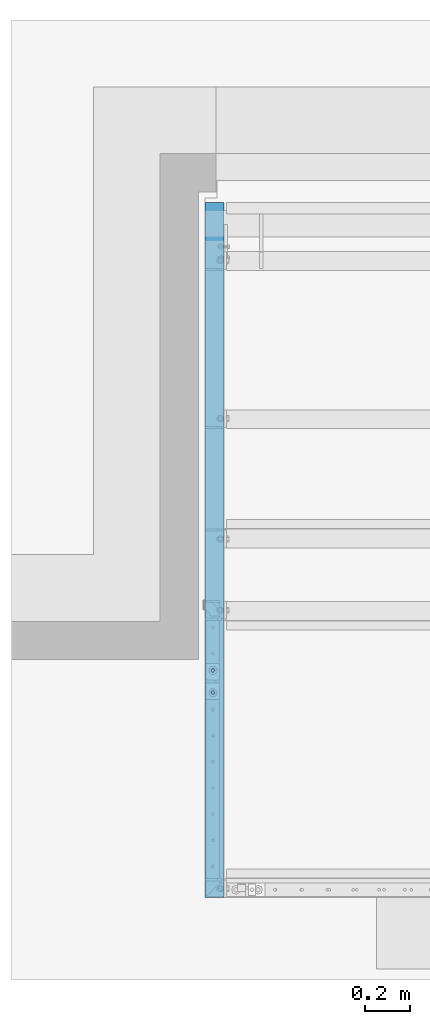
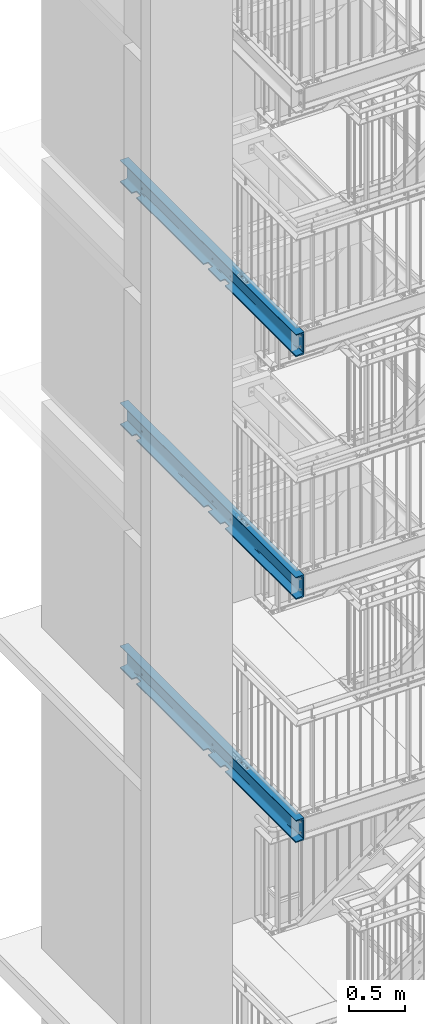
# One storey, part 114 of 825: 3 beams, 39 openings.
"""IFC2X3 building model written with IfcOpenShell, lengths in millimetres."""

import ifcopenshell
import ifcopenshell.guid

model = None  # the IFC model being written
_history = None  # IfcOwnerHistory: only IFC2X3 demands one
_inside = {}  # id of a spatial element -> (the spatial element, [elements in it])
_under = {}  # id of a project, library or spatial element -> (it, [spatial elements below it])
_declared = {}  # id of a project -> (the project, [libraries it declares])
_typed = {}  # id of a type object -> (the type object, [elements of that type])
_made_of = {}  # id of a material, layer set ... -> (it, [elements and type objects made of it])


def new_model(schema):
    """Start an empty IFC model of exactly this schema.

    Asked for "IFC4X3", IfcOpenShell would pick the latest addendum, in which some entities
    have other attributes; the version numbers below select the first issue.
    IFC2X3 requires an IfcOwnerHistory on every rooted entity: one is made here for all.
    """
    global model, _history
    if schema == "IFC4X3":
        model = ifcopenshell.file(schema_version=(4, 3, 0, 0))
    else:
        model = ifcopenshell.file(schema=schema)
    _inside.clear()
    _under.clear()
    _declared.clear()
    _typed.clear()
    _made_of.clear()
    _history = None
    if model.schema == "IFC2X3":
        org = make("IfcOrganization", Name="unknown")
        user = make(
            "IfcPersonAndOrganization",
            ThePerson=make("IfcPerson", FamilyName="unknown"),
            TheOrganization=org,
        )
        app = make(
            "IfcApplication",
            ApplicationDeveloper=org,
            Version="unknown",
            ApplicationFullName="unknown",
            ApplicationIdentifier="unknown",
        )
        _history = make(
            "IfcOwnerHistory",
            OwningUser=user,
            OwningApplication=app,
            ChangeAction="ADDED",
            CreationDate=0,
        )
    return model


def make(cls, **values):
    """One entity of the class cls with the attributes given. An attribute that is None is left unset."""
    return model.create_entity(
        cls, **{name: value for name, value in values.items() if value is not None}
    )


def entity(cls, *values):
    """Any entity or typed value of the class cls, its attributes in the order of the schema. None: left unset."""
    e = model.create_entity(cls)
    for i, value in enumerate(values):
        if value is not None:
            e[i] = value
    return e


def rooted(cls, **values):
    """An entity with a GlobalId (a new one), such as an element, a storey or a relation."""
    return make(cls, GlobalId=ifcopenshell.guid.new(), OwnerHistory=_history, **values)


def si_unit(unit_type, name, prefix=None):
    """IfcSIUnit, for example si_unit("LENGTHUNIT", "METRE", prefix="MILLI")."""
    return make("IfcSIUnit", UnitType=unit_type, Prefix=prefix, Name=name)


def converted_unit(unit_type, name, factor, base, dimensions=None, offset=None):
    """IfcConversionBasedUnit, such as the inch: factor (a typed value) times the base unit."""
    return make(
        "IfcConversionBasedUnit"
        if offset is None
        else "IfcConversionBasedUnitWithOffset",
        ConversionOffset=offset,
        Dimensions=None
        if dimensions is None
        else entity("IfcDimensionalExponents", *dimensions),
        UnitType=unit_type,
        Name=name,
        ConversionFactor=make(
            "IfcMeasureWithUnit", ValueComponent=factor, UnitComponent=base
        ),
    )


def assignment(units):
    """IfcUnitAssignment: the units of a project."""
    return None if units is None else make("IfcUnitAssignment", Units=units)


def point(xyz):
    """IfcCartesianPoint."""
    return None if xyz is None else make("IfcCartesianPoint", Coordinates=xyz)


def direction(xyz):
    """IfcDirection."""
    return None if xyz is None else make("IfcDirection", DirectionRatios=xyz)


def frame(location, z_axis=None, x_axis=None):
    """IfcAxis2Placement3D, a coordinate frame: its origin and axes. An axis left out is left unset."""
    return make(
        "IfcAxis2Placement3D",
        Location=point(location),
        Axis=direction(z_axis),
        RefDirection=direction(x_axis),
    )


def frame_2d(location, x_axis=None):
    """IfcAxis2Placement2D, a coordinate frame in the plane: its origin and x axis."""
    return make(
        "IfcAxis2Placement2D", Location=point(location), RefDirection=direction(x_axis)
    )


def origin():
    """The frame at (0, 0, 0) with its axes left unset."""
    return frame((0.0, 0.0, 0.0))


def origin_with_axes():
    """The frame at (0, 0, 0) with the z axis (0, 0, 1) and the x axis (1, 0, 0) written out."""
    return frame((0.0, 0.0, 0.0), z_axis=(0.0, 0.0, 1.0), x_axis=(1.0, 0.0, 0.0))


def place(relative_to, where):
    """IfcLocalPlacement: puts the frame where relative to a parent placement (None: the world)."""
    return make(
        "IfcLocalPlacement", PlacementRelTo=relative_to, RelativePlacement=where
    )


def context(
    kind, dimensions, precision=None, world=None, true_north=None, identifier=None
):
    """IfcGeometricRepresentationContext, for example the 3D "Model" context."""
    return make(
        "IfcGeometricRepresentationContext",
        ContextIdentifier=identifier,
        ContextType=kind,
        CoordinateSpaceDimension=dimensions,
        Precision=precision,
        WorldCoordinateSystem=world,
        TrueNorth=true_north,
    )


def project(units=None, contexts=None):
    """IfcProject with its units and contexts."""
    return rooted(
        "IfcProject",
        Name="project",
        RepresentationContexts=contexts,
        UnitsInContext=assignment(units),
    )


def spatial(cls, under=None, at=None, **own):
    """A site, building, storey or space (cls), placed at a placement, below another one or the project."""
    s = rooted(cls, ObjectPlacement=at, **own)
    if under is not None:
        _under.setdefault(under.id(), (under, []))[1].append(s)
    return s


def circle_curve(where, radius):
    """IfcCircle in the frame where."""
    return make("IfcCircle", Position=where, Radius=radius)


def line_curve(start, along, magnitude):
    """IfcLine from a point along a vector."""
    return make(
        "IfcLine",
        Pnt=point(start),
        Dir=make("IfcVector", Orientation=direction(along), Magnitude=magnitude),
    )


def trimmed(basis, trim1, trim2, sense, master):
    """IfcTrimmedCurve: the piece of a basis curve between two trims."""
    return make(
        "IfcTrimmedCurve",
        BasisCurve=basis,
        Trim1=trim1,
        Trim2=trim2,
        SenseAgreement=sense,
        MasterRepresentation=master,
    )


def segment(curve, same_sense, transition):
    """IfcCompositeCurveSegment."""
    return make(
        "IfcCompositeCurveSegment",
        Transition=transition,
        SameSense=same_sense,
        ParentCurve=curve,
    )


def composite_curve(segments, self_intersect=None):
    """IfcCompositeCurve: segments joined end to end."""
    return make("IfcCompositeCurve", Segments=segments, SelfIntersect=self_intersect)


def profile(cls, at=None, kind="AREA", **sizes):
    """A parametric profile (cls). Its sizes go by their IFC names, for example OverallWidth=200.0."""
    return make(cls, ProfileType=kind, Position=at, **sizes)


def circle(**sizes):
    """IfcCircleProfileDef."""
    return profile("IfcCircleProfileDef", **sizes)


def u_section(**sizes):
    """IfcUShapeProfileDef."""
    return profile("IfcUShapeProfileDef", **sizes)


def outline(outer, holes=None, kind="AREA"):
    """IfcArbitraryClosedProfileDef: a profile drawn as a closed curve; with holes, ...WithVoids."""
    if holes is None:
        return make("IfcArbitraryClosedProfileDef", ProfileType=kind, OuterCurve=outer)
    return make(
        "IfcArbitraryProfileDefWithVoids",
        ProfileType=kind,
        OuterCurve=outer,
        InnerCurves=holes,
    )


def extrude(swept, where, along, depth):
    """IfcExtrudedAreaSolid: the profile swept, set in the frame where, extruded along a direction by depth."""
    return make(
        "IfcExtrudedAreaSolid",
        SweptArea=swept,
        Position=where,
        ExtrudedDirection=direction(along),
        Depth=depth,
    )


def shape(context_of_items, identifier, shape_type, items):
    """IfcShapeRepresentation: the items that make up one representation, for example the "Body"."""
    return make(
        "IfcShapeRepresentation",
        ContextOfItems=context_of_items,
        RepresentationIdentifier=identifier,
        RepresentationType=shape_type,
        Items=items,
    )


def material(Name=None, Category=None):
    """IfcMaterial."""
    return make("IfcMaterial", Name=Name, Category=Category)


def made_of(thing, what):
    """Note that an element or type object is made of a material, layer set ...; save() writes the relation."""
    if what is not None:
        _made_of.setdefault(what.id(), (what, []))[1].append(thing)
    return thing


def element(
    cls,
    number,
    at=None,
    inside=None,
    cuts=None,
    type_object=None,
    material=None,
    context=None,
    identifier="Body",
    shape_type=None,
    held_by="IfcProductDefinitionShape",
    body=None,
    shapes=None,
    **own,
):
    """One element of the class cls, such as IfcWall. Its Tag is "e" and its number.

    at: its placement. inside: the storey or other place that contains it. cuts: it is an
    opening in that element (IfcRelVoidsElement). A single representation is given by context,
    identifier, shape_type and body (its items); several are given by shapes. held_by: the class
    of the entity that holds the representations. save() writes the other relations.
    """
    e = rooted(cls, Tag="e%d" % number, ObjectPlacement=at, **own)
    if body is not None:
        shapes = [shape(context, identifier, shape_type, body)]
    if shapes is not None:
        e.Representation = make(held_by, Representations=shapes)
    if inside is not None:
        _inside.setdefault(inside.id(), (inside, []))[1].append(e)
    if cuts is not None:
        rooted(
            "IfcRelVoidsElement", RelatingBuildingElement=cuts, RelatedOpeningElement=e
        )
    if type_object is not None:
        _typed.setdefault(type_object.id(), (type_object, []))[1].append(e)
    return made_of(e, material)


def aggregate(whole, parts):
    """IfcRelAggregates: a whole, such as a stair, and the parts it consists of."""
    return rooted("IfcRelAggregates", RelatingObject=whole, RelatedObjects=parts)


def save(model, path):
    """Write the relations noted so far, then the file.

    IfcRelAggregates (storeys below a building ...), IfcRelContainedInSpatialStructure (elements
    in a storey), IfcRelDefinesByType, IfcRelAssociatesMaterial and IfcRelDeclares: one each for
    every whole, place, type object, material and project.
    """
    for whole, parts in _under.values():
        aggregate(whole, parts)
    for where, things in _inside.values():
        rooted(
            "IfcRelContainedInSpatialStructure",
            RelatedElements=things,
            RelatingStructure=where,
        )
    for kind, things in _typed.values():
        rooted("IfcRelDefinesByType", RelatedObjects=things, RelatingType=kind)
    for what, things in _made_of.values():
        rooted("IfcRelAssociatesMaterial", RelatedObjects=things, RelatingMaterial=what)
    for by, libraries in _declared.values():
        rooted("IfcRelDeclares", RelatingContext=by, RelatedDefinitions=libraries)
    model.write(path)


model = new_model("IFC2X3")

# Units and contexts
model_context = context("Model", 3, precision=1e-09, world=origin_with_axes())
ifc_project = project(units=[si_unit("LENGTHUNIT", "METRE", prefix="MILLI"), si_unit("AREAUNIT", "SQUARE_METRE"), si_unit("VOLUMEUNIT", "CUBIC_METRE"), converted_unit("PLANEANGLEUNIT", "DEGREE", entity("IfcPlaneAngleMeasure", 0.01745329), si_unit("PLANEANGLEUNIT", "RADIAN"), dimensions=[0, 0, 0, 0, 0, 0, 0])], contexts=[model_context])

# Site, building, storey
site_placement = place(None, origin_with_axes())
site = spatial("IfcSite", under=ifc_project, at=site_placement, Name="Cnopf'sche Kinderklinik", CompositionType="ELEMENT")
building_placement = place(site_placement, origin_with_axes())
building = spatial("IfcBuilding", under=site, at=building_placement, Name="Struktur 1", CompositionType="ELEMENT")
storey_placement = place(building_placement, origin_with_axes())
storey = spatial("IfcBuildingStorey", under=building, at=storey_placement, Name="Default Storey", CompositionType="ELEMENT", Elevation=0.0)

# Beam, openings
ifc_material = material(Name="S235JR")
beam_1_placement = place(None, frame((3299.413402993, 4491.736971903, 12459.0), z_axis=(0.0, 1.0, 0.0), x_axis=(-1.0, 0.0, 0.0)))
beam_1 = element("IfcBeam", 1, at=beam_1_placement, inside=storey, material=ifc_material, Name="Girder", ObjectType="Girder", context=model_context, shape_type="SweptSolid", body=[
    extrude(u_section(Depth=240.0, FlangeWidth=85.0, WebThickness=9.5, FlangeThickness=13.0, FilletRadius=13.0, EdgeRadius=6.5, FlangeSlope=4.574, at=frame_2d((20.2, 0.0))), origin(), (0.0, 0.0, 1.0), 3120.0),
])
opening_1_placement = place(beam_1_placement, frame((81.62874817, -30.0, 1269.999), z_axis=(0.0, 1.0, 0.0), x_axis=(-0.707106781, 0.0, -0.707106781)))
element("IfcOpeningElement", 2, at=opening_1_placement, cuts=beam_1, ObjectType="Opening", context=model_context, shape_type="SweptSolid", body=[
    extrude(outline(composite_curve([segment(trimmed(circle_curve(frame_2d((7.071067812, 7.071067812), x_axis=(1.0, 0.0)), 10.0), [point((0.0, 0.0))], [point((14.142135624, 0.0))], True, "CARTESIAN"), True, "CONTINUOUS"), segment(trimmed(line_curve((14.142135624, 0.0), (0.707106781, 0.707106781), 48.92974817), [point((14.142135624, 0.0))], [point((48.740692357, 34.598556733))], True, "CARTESIAN"), True, "CONTINUOUS"), segment(trimmed(circle_curve(frame_2d((41.669624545, 41.669624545), x_axis=(1.0, 0.0)), 10.0), [point((48.740692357, 34.598556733))], [point((48.740692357, 48.740692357))], True, "CARTESIAN"), True, "CONTINUOUS"), segment(trimmed(line_curve((48.740692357, 48.740692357), (-0.707106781, 0.707106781), 60.002), [point((48.740692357, 48.740692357))], [point((6.312871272, 91.168513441))], True, "CARTESIAN"), True, "CONTINUOUS"), segment(trimmed(circle_curve(frame_2d((-0.75819654, 84.097445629), x_axis=(1.0, 0.0)), 10.0), [point((6.312871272, 91.168513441))], [point((-7.829264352, 91.168513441))], True, "CARTESIAN"), True, "CONTINUOUS"), segment(trimmed(line_curve((-7.829264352, 91.168513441), (-0.707106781, -0.707106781), 48.92974817), [point((-7.829264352, 91.168513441))], [point((-42.427821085, 56.569956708))], True, "CARTESIAN"), True, "CONTINUOUS"), segment(trimmed(circle_curve(frame_2d((-35.356753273, 49.498888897), x_axis=(1.0, 0.0)), 10.0), [point((-42.427821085, 56.569956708))], [point((-42.427821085, 42.427821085))], True, "CARTESIAN"), True, "CONTINUOUS"), segment(trimmed(line_curve((-42.427821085, 42.427821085), (0.707106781, -0.707106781), 60.002), [point((-42.427821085, 42.427821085))], [point((0.0, 0.0))], True, "CARTESIAN"), True, "CONTINUOUS")], self_intersect=False)), origin(), (0.0, 0.0, -1.0), 190.1),
])
opening_2_placement = place(beam_1_placement, frame((79.429256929, -30.0, 2839.999), z_axis=(0.0, 1.0, 0.0), x_axis=(-0.707106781, 0.0, -0.707106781)))
element("IfcOpeningElement", 3, at=opening_2_placement, cuts=beam_1, ObjectType="Opening", context=model_context, shape_type="SweptSolid", body=[
    extrude(outline(composite_curve([segment(trimmed(circle_curve(frame_2d((7.071067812, 7.071067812), x_axis=(1.0, 0.0)), 10.0), [point((0.0, 0.0))], [point((14.142135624, 0.0))], True, "CARTESIAN"), True, "CONTINUOUS"), segment(trimmed(line_curve((14.142135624, 0.0), (0.707106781, 0.707106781), 46.730256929), [point((14.142135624, 0.0))], [point((47.185417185, 33.043281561))], True, "CARTESIAN"), True, "CONTINUOUS"), segment(trimmed(circle_curve(frame_2d((40.114349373, 40.114349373), x_axis=(1.0, 0.0)), 10.0), [point((47.185417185, 33.043281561))], [point((47.185417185, 47.185417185))], True, "CARTESIAN"), True, "CONTINUOUS"), segment(trimmed(line_curve((47.185417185, 47.185417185), (-0.707106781, 0.707106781), 60.002), [point((47.185417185, 47.185417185))], [point((4.7575961, 89.61323827))], True, "CARTESIAN"), True, "CONTINUOUS"), segment(trimmed(circle_curve(frame_2d((-2.313471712, 82.542170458), x_axis=(1.0, 0.0)), 10.0), [point((4.7575961, 89.61323827))], [point((-9.384539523, 89.61323827))], True, "CARTESIAN"), True, "CONTINUOUS"), segment(trimmed(line_curve((-9.384539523, 89.61323827), (-0.707106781, -0.707106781), 46.730256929), [point((-9.384539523, 89.61323827))], [point((-42.427821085, 56.569956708))], True, "CARTESIAN"), True, "CONTINUOUS"), segment(trimmed(circle_curve(frame_2d((-35.356753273, 49.498888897), x_axis=(1.0, 0.0)), 10.0), [point((-42.427821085, 56.569956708))], [point((-42.427821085, 42.427821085))], True, "CARTESIAN"), True, "CONTINUOUS"), segment(trimmed(line_curve((-42.427821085, 42.427821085), (0.707106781, -0.707106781), 60.002), [point((-42.427821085, 42.427821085))], [point((0.0, 0.0))], True, "CARTESIAN"), True, "CONTINUOUS")], self_intersect=False)), origin(), (0.0, 0.0, -1.0), 190.1),
])
opening_3_placement = place(beam_1_placement, frame((80.021054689, -30.0, 1569.999), z_axis=(0.0, 1.0, 0.0), x_axis=(-0.707106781, 0.0, -0.707106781)))
element("IfcOpeningElement", 4, at=opening_3_placement, cuts=beam_1, ObjectType="Opening", context=model_context, shape_type="SweptSolid", body=[
    extrude(outline(composite_curve([segment(trimmed(circle_curve(frame_2d((7.071067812, 7.071067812), x_axis=(1.0, 0.0)), 10.0), [point((0.0, 0.0))], [point((14.142135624, 0.0))], True, "CARTESIAN"), True, "CONTINUOUS"), segment(trimmed(line_curve((14.142135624, 0.0), (0.707106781, 0.707106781), 47.322054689), [point((14.142135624, 0.0))], [point((47.603881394, 33.46174577))], True, "CARTESIAN"), True, "CONTINUOUS"), segment(trimmed(circle_curve(frame_2d((40.532813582, 40.532813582), x_axis=(1.0, 0.0)), 10.0), [point((47.603881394, 33.46174577))], [point((47.603881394, 47.603881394))], True, "CARTESIAN"), True, "CONTINUOUS"), segment(trimmed(line_curve((47.603881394, 47.603881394), (-0.707106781, 0.707106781), 60.002), [point((47.603881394, 47.603881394))], [point((5.176060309, 90.031702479))], True, "CARTESIAN"), True, "CONTINUOUS"), segment(trimmed(circle_curve(frame_2d((-1.895007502, 82.960634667), x_axis=(1.0, 0.0)), 10.0), [point((5.176060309, 90.031702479))], [point((-8.966075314, 90.031702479))], True, "CARTESIAN"), True, "CONTINUOUS"), segment(trimmed(line_curve((-8.966075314, 90.031702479), (-0.707106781, -0.707106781), 47.322054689), [point((-8.966075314, 90.031702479))], [point((-42.427821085, 56.569956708))], True, "CARTESIAN"), True, "CONTINUOUS"), segment(trimmed(circle_curve(frame_2d((-35.356753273, 49.498888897), x_axis=(1.0, 0.0)), 10.0), [point((-42.427821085, 56.569956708))], [point((-42.427821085, 42.427821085))], True, "CARTESIAN"), True, "CONTINUOUS"), segment(trimmed(line_curve((-42.427821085, 42.427821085), (0.707106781, -0.707106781), 60.002), [point((-42.427821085, 42.427821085))], [point((0.0, 0.0))], True, "CARTESIAN"), True, "CONTINUOUS")], self_intersect=False)), origin(), (0.0, 0.0, -1.0), 190.1),
])
opening_4_placement = place(beam_1_placement, frame((27.7, 120.5, 1013.001), z_axis=(0.0, 1.0, 0.0), x_axis=(-1.0, 0.0, 0.0)))
element("IfcOpeningElement", 5, at=opening_4_placement, cuts=beam_1, ObjectType="Opening", context=model_context, shape_type="SweptSolid", body=[
    extrude(circle(Radius=7.001, at=frame_2d((0.0, 7.001), x_axis=(1.0, 0.0))), origin(), (0.0, 0.0, -1.0), 14.0),
])
opening_5_placement = place(beam_1_placement, frame((27.7, 120.5, 913.001), z_axis=(0.0, 1.0, 0.0), x_axis=(-1.0, 0.0, 0.0)))
element("IfcOpeningElement", 6, at=opening_5_placement, cuts=beam_1, ObjectType="Opening", context=model_context, shape_type="SweptSolid", body=[
    extrude(circle(Radius=7.001, at=frame_2d((0.0, 7.001), x_axis=(1.0, 0.0))), origin(), (0.0, 0.0, -1.0), 14.0),
])
opening_6_placement = place(beam_1_placement, frame((-12.3, 50.999, 1290.0), z_axis=(1.0, 0.0, 0.0), x_axis=(0.0, 1.0, 0.0)))
element("IfcOpeningElement", 7, at=opening_6_placement, cuts=beam_1, ObjectType="Opening", context=model_context, shape_type="SweptSolid", body=[
    extrude(circle(Radius=9.001, at=frame_2d((9.001, 0.0), x_axis=(1.0, 0.0))), origin(), (0.0, 0.0, -1.0), 10.5),
])
opening_7_placement = place(beam_1_placement, frame((-12.3, -69.001, 1290.0), z_axis=(1.0, 0.0, 0.0), x_axis=(0.0, 1.0, 0.0)))
element("IfcOpeningElement", 8, at=opening_7_placement, cuts=beam_1, ObjectType="Opening", context=model_context, shape_type="SweptSolid", body=[
    extrude(circle(Radius=9.001, at=frame_2d((9.001, 0.0), x_axis=(1.0, 0.0))), origin(), (0.0, 0.0, -1.0), 10.5),
])
opening_8_placement = place(beam_1_placement, frame((-12.3, 50.999, 2860.0), z_axis=(1.0, 0.0, 0.0), x_axis=(0.0, 1.0, 0.0)))
element("IfcOpeningElement", 9, at=opening_8_placement, cuts=beam_1, ObjectType="Opening", context=model_context, shape_type="SweptSolid", body=[
    extrude(circle(Radius=9.001, at=frame_2d((9.001, 0.0), x_axis=(1.0, 0.0))), origin(), (0.0, 0.0, -1.0), 10.5),
])
opening_9_placement = place(beam_1_placement, frame((-12.3, -69.001, 2860.0), z_axis=(1.0, 0.0, 0.0), x_axis=(0.0, 1.0, 0.0)))
element("IfcOpeningElement", 10, at=opening_9_placement, cuts=beam_1, ObjectType="Opening", context=model_context, shape_type="SweptSolid", body=[
    extrude(circle(Radius=9.001, at=frame_2d((9.001, 0.0), x_axis=(1.0, 0.0))), origin(), (0.0, 0.0, -1.0), 10.5),
])
opening_10_placement = place(beam_1_placement, frame((-12.3, 0.0, 1610.0), z_axis=(-1.0, 0.0, 0.0), x_axis=(0.0, 1.0, 0.0)))
element("IfcOpeningElement", 11, at=opening_10_placement, cuts=beam_1, ObjectType="Opening", context=model_context, shape_type="SweptSolid", body=[
    extrude(circle(Radius=9.001, at=frame_2d((60.0, 0.0), x_axis=(1.0, 0.0))), origin(), (0.0, 0.0, 1.0), 10.5),
])
opening_11_placement = place(beam_1_placement, frame((-12.3, 0.0, 1610.0), z_axis=(-1.0, 0.0, 0.0), x_axis=(0.0, 1.0, 0.0)))
element("IfcOpeningElement", 12, at=opening_11_placement, cuts=beam_1, ObjectType="Opening", context=model_context, shape_type="SweptSolid", body=[
    extrude(circle(Radius=9.001, at=frame_2d((-60.0, 0.0), x_axis=(1.0, 0.0))), origin(), (0.0, 0.0, 1.0), 10.5),
])
opening_12_placement = place(beam_1_placement, frame((-12.3, 0.0, 40.0), z_axis=(-1.0, 0.0, 0.0), x_axis=(0.0, 1.0, 0.0)))
element("IfcOpeningElement", 13, at=opening_12_placement, cuts=beam_1, ObjectType="Opening", context=model_context, shape_type="SweptSolid", body=[
    extrude(circle(Radius=9.001, at=frame_2d((60.0, 0.0), x_axis=(1.0, 0.0))), origin(), (0.0, 0.0, 1.0), 10.5),
])
opening_13_placement = place(beam_1_placement, frame((-12.3, 0.0, 40.0), z_axis=(-1.0, 0.0, 0.0), x_axis=(0.0, 1.0, 0.0)))
element("IfcOpeningElement", 14, at=opening_13_placement, cuts=beam_1, ObjectType="Opening", context=model_context, shape_type="SweptSolid", body=[
    extrude(circle(Radius=9.001, at=frame_2d((-60.0, 0.0), x_axis=(1.0, 0.0))), origin(), (0.0, 0.0, 1.0), 10.5),
])

beam_2_placement = place(None, frame((3299.413402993, 4491.736971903, 9832.0), z_axis=(0.0, 1.0, 0.0), x_axis=(-1.0, 0.0, 0.0)))
beam_2 = element("IfcBeam", 15, at=beam_2_placement, inside=storey, material=ifc_material, Name="Girder", ObjectType="Girder", context=model_context, shape_type="SweptSolid", body=[
    extrude(u_section(Depth=240.0, FlangeWidth=85.0, WebThickness=9.5, FlangeThickness=13.0, FilletRadius=13.0, EdgeRadius=6.5, FlangeSlope=4.574, at=frame_2d((20.2, 0.0))), origin(), (0.0, 0.0, 1.0), 3120.0),
])
opening_14_placement = place(beam_2_placement, frame((81.62874817, -30.0, 1269.999), z_axis=(0.0, 1.0, 0.0), x_axis=(-0.707106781, 0.0, -0.707106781)))
element("IfcOpeningElement", 16, at=opening_14_placement, cuts=beam_2, ObjectType="Opening", context=model_context, shape_type="SweptSolid", body=[
    extrude(outline(composite_curve([segment(trimmed(circle_curve(frame_2d((7.071067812, 7.071067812), x_axis=(1.0, 0.0)), 10.0), [point((0.0, 0.0))], [point((14.142135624, 0.0))], True, "CARTESIAN"), True, "CONTINUOUS"), segment(trimmed(line_curve((14.142135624, 0.0), (0.707106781, 0.707106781), 48.92974817), [point((14.142135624, 0.0))], [point((48.740692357, 34.598556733))], True, "CARTESIAN"), True, "CONTINUOUS"), segment(trimmed(circle_curve(frame_2d((41.669624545, 41.669624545), x_axis=(1.0, 0.0)), 10.0), [point((48.740692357, 34.598556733))], [point((48.740692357, 48.740692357))], True, "CARTESIAN"), True, "CONTINUOUS"), segment(trimmed(line_curve((48.740692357, 48.740692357), (-0.707106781, 0.707106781), 60.002), [point((48.740692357, 48.740692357))], [point((6.312871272, 91.168513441))], True, "CARTESIAN"), True, "CONTINUOUS"), segment(trimmed(circle_curve(frame_2d((-0.75819654, 84.097445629), x_axis=(1.0, 0.0)), 10.0), [point((6.312871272, 91.168513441))], [point((-7.829264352, 91.168513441))], True, "CARTESIAN"), True, "CONTINUOUS"), segment(trimmed(line_curve((-7.829264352, 91.168513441), (-0.707106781, -0.707106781), 48.92974817), [point((-7.829264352, 91.168513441))], [point((-42.427821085, 56.569956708))], True, "CARTESIAN"), True, "CONTINUOUS"), segment(trimmed(circle_curve(frame_2d((-35.356753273, 49.498888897), x_axis=(1.0, 0.0)), 10.0), [point((-42.427821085, 56.569956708))], [point((-42.427821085, 42.427821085))], True, "CARTESIAN"), True, "CONTINUOUS"), segment(trimmed(line_curve((-42.427821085, 42.427821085), (0.707106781, -0.707106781), 60.002), [point((-42.427821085, 42.427821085))], [point((0.0, 0.0))], True, "CARTESIAN"), True, "CONTINUOUS")], self_intersect=False)), origin(), (0.0, 0.0, -1.0), 190.1),
])
opening_15_placement = place(beam_2_placement, frame((79.429256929, -30.0, 2839.999), z_axis=(0.0, 1.0, 0.0), x_axis=(-0.707106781, 0.0, -0.707106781)))
element("IfcOpeningElement", 17, at=opening_15_placement, cuts=beam_2, ObjectType="Opening", context=model_context, shape_type="SweptSolid", body=[
    extrude(outline(composite_curve([segment(trimmed(circle_curve(frame_2d((7.071067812, 7.071067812), x_axis=(1.0, 0.0)), 10.0), [point((0.0, 0.0))], [point((14.142135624, 0.0))], True, "CARTESIAN"), True, "CONTINUOUS"), segment(trimmed(line_curve((14.142135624, 0.0), (0.707106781, 0.707106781), 46.730256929), [point((14.142135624, 0.0))], [point((47.185417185, 33.043281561))], True, "CARTESIAN"), True, "CONTINUOUS"), segment(trimmed(circle_curve(frame_2d((40.114349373, 40.114349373), x_axis=(1.0, 0.0)), 10.0), [point((47.185417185, 33.043281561))], [point((47.185417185, 47.185417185))], True, "CARTESIAN"), True, "CONTINUOUS"), segment(trimmed(line_curve((47.185417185, 47.185417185), (-0.707106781, 0.707106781), 60.002), [point((47.185417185, 47.185417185))], [point((4.7575961, 89.61323827))], True, "CARTESIAN"), True, "CONTINUOUS"), segment(trimmed(circle_curve(frame_2d((-2.313471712, 82.542170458), x_axis=(1.0, 0.0)), 10.0), [point((4.7575961, 89.61323827))], [point((-9.384539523, 89.61323827))], True, "CARTESIAN"), True, "CONTINUOUS"), segment(trimmed(line_curve((-9.384539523, 89.61323827), (-0.707106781, -0.707106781), 46.730256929), [point((-9.384539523, 89.61323827))], [point((-42.427821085, 56.569956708))], True, "CARTESIAN"), True, "CONTINUOUS"), segment(trimmed(circle_curve(frame_2d((-35.356753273, 49.498888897), x_axis=(1.0, 0.0)), 10.0), [point((-42.427821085, 56.569956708))], [point((-42.427821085, 42.427821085))], True, "CARTESIAN"), True, "CONTINUOUS"), segment(trimmed(line_curve((-42.427821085, 42.427821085), (0.707106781, -0.707106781), 60.002), [point((-42.427821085, 42.427821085))], [point((0.0, 0.0))], True, "CARTESIAN"), True, "CONTINUOUS")], self_intersect=False)), origin(), (0.0, 0.0, -1.0), 190.1),
])
opening_16_placement = place(beam_2_placement, frame((80.021054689, -30.0, 1569.999), z_axis=(0.0, 1.0, 0.0), x_axis=(-0.707106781, 0.0, -0.707106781)))
element("IfcOpeningElement", 18, at=opening_16_placement, cuts=beam_2, ObjectType="Opening", context=model_context, shape_type="SweptSolid", body=[
    extrude(outline(composite_curve([segment(trimmed(circle_curve(frame_2d((7.071067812, 7.071067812), x_axis=(1.0, 0.0)), 10.0), [point((0.0, 0.0))], [point((14.142135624, 0.0))], True, "CARTESIAN"), True, "CONTINUOUS"), segment(trimmed(line_curve((14.142135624, 0.0), (0.707106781, 0.707106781), 47.322054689), [point((14.142135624, 0.0))], [point((47.603881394, 33.46174577))], True, "CARTESIAN"), True, "CONTINUOUS"), segment(trimmed(circle_curve(frame_2d((40.532813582, 40.532813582), x_axis=(1.0, 0.0)), 10.0), [point((47.603881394, 33.46174577))], [point((47.603881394, 47.603881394))], True, "CARTESIAN"), True, "CONTINUOUS"), segment(trimmed(line_curve((47.603881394, 47.603881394), (-0.707106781, 0.707106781), 60.002), [point((47.603881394, 47.603881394))], [point((5.176060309, 90.031702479))], True, "CARTESIAN"), True, "CONTINUOUS"), segment(trimmed(circle_curve(frame_2d((-1.895007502, 82.960634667), x_axis=(1.0, 0.0)), 10.0), [point((5.176060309, 90.031702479))], [point((-8.966075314, 90.031702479))], True, "CARTESIAN"), True, "CONTINUOUS"), segment(trimmed(line_curve((-8.966075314, 90.031702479), (-0.707106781, -0.707106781), 47.322054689), [point((-8.966075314, 90.031702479))], [point((-42.427821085, 56.569956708))], True, "CARTESIAN"), True, "CONTINUOUS"), segment(trimmed(circle_curve(frame_2d((-35.356753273, 49.498888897), x_axis=(1.0, 0.0)), 10.0), [point((-42.427821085, 56.569956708))], [point((-42.427821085, 42.427821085))], True, "CARTESIAN"), True, "CONTINUOUS"), segment(trimmed(line_curve((-42.427821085, 42.427821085), (0.707106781, -0.707106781), 60.002), [point((-42.427821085, 42.427821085))], [point((0.0, 0.0))], True, "CARTESIAN"), True, "CONTINUOUS")], self_intersect=False)), origin(), (0.0, 0.0, -1.0), 190.1),
])
opening_17_placement = place(beam_2_placement, frame((27.7, 120.5, 1013.001), z_axis=(0.0, 1.0, 0.0), x_axis=(-1.0, 0.0, 0.0)))
element("IfcOpeningElement", 19, at=opening_17_placement, cuts=beam_2, ObjectType="Opening", context=model_context, shape_type="SweptSolid", body=[
    extrude(circle(Radius=7.001, at=frame_2d((0.0, 7.001), x_axis=(1.0, 0.0))), origin(), (0.0, 0.0, -1.0), 14.0),
])
opening_18_placement = place(beam_2_placement, frame((27.7, 120.5, 913.001), z_axis=(0.0, 1.0, 0.0), x_axis=(-1.0, 0.0, 0.0)))
element("IfcOpeningElement", 20, at=opening_18_placement, cuts=beam_2, ObjectType="Opening", context=model_context, shape_type="SweptSolid", body=[
    extrude(circle(Radius=7.001, at=frame_2d((0.0, 7.001), x_axis=(1.0, 0.0))), origin(), (0.0, 0.0, -1.0), 14.0),
])
opening_19_placement = place(beam_2_placement, frame((-12.3, 50.999, 1290.0), z_axis=(1.0, 0.0, 0.0), x_axis=(0.0, 1.0, 0.0)))
element("IfcOpeningElement", 21, at=opening_19_placement, cuts=beam_2, ObjectType="Opening", context=model_context, shape_type="SweptSolid", body=[
    extrude(circle(Radius=9.001, at=frame_2d((9.001, 0.0), x_axis=(1.0, 0.0))), origin(), (0.0, 0.0, -1.0), 10.5),
])
opening_20_placement = place(beam_2_placement, frame((-12.3, -69.001, 1290.0), z_axis=(1.0, 0.0, 0.0), x_axis=(0.0, 1.0, 0.0)))
element("IfcOpeningElement", 22, at=opening_20_placement, cuts=beam_2, ObjectType="Opening", context=model_context, shape_type="SweptSolid", body=[
    extrude(circle(Radius=9.001, at=frame_2d((9.001, 0.0), x_axis=(1.0, 0.0))), origin(), (0.0, 0.0, -1.0), 10.5),
])
opening_21_placement = place(beam_2_placement, frame((-12.3, 0.0, 40.0), z_axis=(-1.0, 0.0, 0.0), x_axis=(0.0, 1.0, 0.0)))
element("IfcOpeningElement", 23, at=opening_21_placement, cuts=beam_2, ObjectType="Opening", context=model_context, shape_type="SweptSolid", body=[
    extrude(circle(Radius=9.001, at=frame_2d((60.0, 0.0), x_axis=(1.0, 0.0))), origin(), (0.0, 0.0, 1.0), 10.5),
])
opening_22_placement = place(beam_2_placement, frame((-12.3, 0.0, 40.0), z_axis=(-1.0, 0.0, 0.0), x_axis=(0.0, 1.0, 0.0)))
element("IfcOpeningElement", 24, at=opening_22_placement, cuts=beam_2, ObjectType="Opening", context=model_context, shape_type="SweptSolid", body=[
    extrude(circle(Radius=9.001, at=frame_2d((-60.0, 0.0), x_axis=(1.0, 0.0))), origin(), (0.0, 0.0, 1.0), 10.5),
])
opening_23_placement = place(beam_2_placement, frame((-12.3, 0.0, 1610.0), z_axis=(-1.0, 0.0, 0.0), x_axis=(0.0, 1.0, 0.0)))
element("IfcOpeningElement", 25, at=opening_23_placement, cuts=beam_2, ObjectType="Opening", context=model_context, shape_type="SweptSolid", body=[
    extrude(circle(Radius=9.001, at=frame_2d((60.0, 0.0), x_axis=(1.0, 0.0))), origin(), (0.0, 0.0, 1.0), 10.5),
])
opening_24_placement = place(beam_2_placement, frame((-12.3, 0.0, 1610.0), z_axis=(-1.0, 0.0, 0.0), x_axis=(0.0, 1.0, 0.0)))
element("IfcOpeningElement", 26, at=opening_24_placement, cuts=beam_2, ObjectType="Opening", context=model_context, shape_type="SweptSolid", body=[
    extrude(circle(Radius=9.001, at=frame_2d((-60.0, 0.0), x_axis=(1.0, 0.0))), origin(), (0.0, 0.0, 1.0), 10.5),
])
opening_25_placement = place(beam_2_placement, frame((-12.3, 50.999, 2860.0), z_axis=(1.0, 0.0, 0.0), x_axis=(0.0, 1.0, 0.0)))
element("IfcOpeningElement", 27, at=opening_25_placement, cuts=beam_2, ObjectType="Opening", context=model_context, shape_type="SweptSolid", body=[
    extrude(circle(Radius=9.001, at=frame_2d((9.001, 0.0), x_axis=(1.0, 0.0))), origin(), (0.0, 0.0, -1.0), 10.5),
])
opening_26_placement = place(beam_2_placement, frame((-12.3, -69.001, 2860.0), z_axis=(1.0, 0.0, 0.0), x_axis=(0.0, 1.0, 0.0)))
element("IfcOpeningElement", 28, at=opening_26_placement, cuts=beam_2, ObjectType="Opening", context=model_context, shape_type="SweptSolid", body=[
    extrude(circle(Radius=9.001, at=frame_2d((9.001, 0.0), x_axis=(1.0, 0.0))), origin(), (0.0, 0.0, -1.0), 10.5),
])

beam_3_placement = place(None, frame((3299.413402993, 4491.736971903, 7200.0), z_axis=(0.0, 1.0, 0.0), x_axis=(-1.0, 0.0, 0.0)))
beam_3 = element("IfcBeam", 29, at=beam_3_placement, inside=storey, material=ifc_material, Name="Girder", ObjectType="Girder", context=model_context, shape_type="SweptSolid", body=[
    extrude(u_section(Depth=240.0, FlangeWidth=85.0, WebThickness=9.5, FlangeThickness=13.0, FilletRadius=13.0, EdgeRadius=6.5, FlangeSlope=4.574, at=frame_2d((20.2, 0.0))), origin(), (0.0, 0.0, 1.0), 3120.0),
])
opening_27_placement = place(beam_3_placement, frame((81.62874817, -30.0, 1269.999), z_axis=(0.0, 1.0, 0.0), x_axis=(-0.707106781, 0.0, -0.707106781)))
element("IfcOpeningElement", 30, at=opening_27_placement, cuts=beam_3, ObjectType="Opening", context=model_context, shape_type="SweptSolid", body=[
    extrude(outline(composite_curve([segment(trimmed(circle_curve(frame_2d((7.071067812, 7.071067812), x_axis=(1.0, 0.0)), 10.0), [point((0.0, 0.0))], [point((14.142135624, 0.0))], True, "CARTESIAN"), True, "CONTINUOUS"), segment(trimmed(line_curve((14.142135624, 0.0), (0.707106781, 0.707106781), 48.92974817), [point((14.142135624, 0.0))], [point((48.740692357, 34.598556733))], True, "CARTESIAN"), True, "CONTINUOUS"), segment(trimmed(circle_curve(frame_2d((41.669624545, 41.669624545), x_axis=(1.0, 0.0)), 10.0), [point((48.740692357, 34.598556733))], [point((48.740692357, 48.740692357))], True, "CARTESIAN"), True, "CONTINUOUS"), segment(trimmed(line_curve((48.740692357, 48.740692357), (-0.707106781, 0.707106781), 60.002), [point((48.740692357, 48.740692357))], [point((6.312871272, 91.168513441))], True, "CARTESIAN"), True, "CONTINUOUS"), segment(trimmed(circle_curve(frame_2d((-0.75819654, 84.097445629), x_axis=(1.0, 0.0)), 10.0), [point((6.312871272, 91.168513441))], [point((-7.829264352, 91.168513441))], True, "CARTESIAN"), True, "CONTINUOUS"), segment(trimmed(line_curve((-7.829264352, 91.168513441), (-0.707106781, -0.707106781), 48.92974817), [point((-7.829264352, 91.168513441))], [point((-42.427821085, 56.569956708))], True, "CARTESIAN"), True, "CONTINUOUS"), segment(trimmed(circle_curve(frame_2d((-35.356753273, 49.498888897), x_axis=(1.0, 0.0)), 10.0), [point((-42.427821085, 56.569956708))], [point((-42.427821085, 42.427821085))], True, "CARTESIAN"), True, "CONTINUOUS"), segment(trimmed(line_curve((-42.427821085, 42.427821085), (0.707106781, -0.707106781), 60.002), [point((-42.427821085, 42.427821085))], [point((0.0, 0.0))], True, "CARTESIAN"), True, "CONTINUOUS")], self_intersect=False)), origin(), (0.0, 0.0, -1.0), 190.1),
])
opening_28_placement = place(beam_3_placement, frame((82.514590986, -30.0, 1569.999), z_axis=(0.0, 1.0, 0.0), x_axis=(-0.707106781, 0.0, -0.707106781)))
element("IfcOpeningElement", 31, at=opening_28_placement, cuts=beam_3, ObjectType="Opening", context=model_context, shape_type="SweptSolid", body=[
    extrude(outline(composite_curve([segment(trimmed(circle_curve(frame_2d((7.071067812, 7.071067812), x_axis=(1.0, 0.0)), 10.0), [point((0.0, 0.0))], [point((14.142135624, 0.0))], True, "CARTESIAN"), True, "CONTINUOUS"), segment(trimmed(line_curve((14.142135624, 0.0), (0.707106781, 0.707106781), 49.815590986), [point((14.142135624, 0.0))], [point((49.367077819, 35.224942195))], True, "CARTESIAN"), True, "CONTINUOUS"), segment(trimmed(circle_curve(frame_2d((42.296010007, 42.296010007), x_axis=(1.0, 0.0)), 10.0), [point((49.367077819, 35.224942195))], [point((49.367077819, 49.367077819))], True, "CARTESIAN"), True, "CONTINUOUS"), segment(trimmed(line_curve((49.367077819, 49.367077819), (-0.707106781, 0.707106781), 60.002), [point((49.367077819, 49.367077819))], [point((6.939256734, 91.794898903))], True, "CARTESIAN"), True, "CONTINUOUS"), segment(trimmed(circle_curve(frame_2d((-0.131811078, 84.723831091), x_axis=(1.0, 0.0)), 10.0), [point((6.939256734, 91.794898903))], [point((-7.20287889, 91.794898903))], True, "CARTESIAN"), True, "CONTINUOUS"), segment(trimmed(line_curve((-7.20287889, 91.794898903), (-0.707106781, -0.707106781), 49.815590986), [point((-7.20287889, 91.794898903))], [point((-42.427821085, 56.569956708))], True, "CARTESIAN"), True, "CONTINUOUS"), segment(trimmed(circle_curve(frame_2d((-35.356753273, 49.498888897), x_axis=(1.0, 0.0)), 10.0), [point((-42.427821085, 56.569956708))], [point((-42.427821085, 42.427821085))], True, "CARTESIAN"), True, "CONTINUOUS"), segment(trimmed(line_curve((-42.427821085, 42.427821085), (0.707106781, -0.707106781), 60.002), [point((-42.427821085, 42.427821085))], [point((0.0, 0.0))], True, "CARTESIAN"), True, "CONTINUOUS")], self_intersect=False)), origin(), (0.0, 0.0, -1.0), 190.1),
])
opening_29_placement = place(beam_3_placement, frame((82.514590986, -30.0, 2839.999), z_axis=(0.0, 1.0, 0.0), x_axis=(-0.707106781, 0.0, -0.707106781)))
element("IfcOpeningElement", 32, at=opening_29_placement, cuts=beam_3, ObjectType="Opening", context=model_context, shape_type="SweptSolid", body=[
    extrude(outline(composite_curve([segment(trimmed(circle_curve(frame_2d((7.071067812, 7.071067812), x_axis=(1.0, 0.0)), 10.0), [point((0.0, 0.0))], [point((14.142135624, 0.0))], True, "CARTESIAN"), True, "CONTINUOUS"), segment(trimmed(line_curve((14.142135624, 0.0), (0.707106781, 0.707106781), 49.815590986), [point((14.142135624, 0.0))], [point((49.367077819, 35.224942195))], True, "CARTESIAN"), True, "CONTINUOUS"), segment(trimmed(circle_curve(frame_2d((42.296010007, 42.296010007), x_axis=(1.0, 0.0)), 10.0), [point((49.367077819, 35.224942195))], [point((49.367077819, 49.367077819))], True, "CARTESIAN"), True, "CONTINUOUS"), segment(trimmed(line_curve((49.367077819, 49.367077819), (-0.707106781, 0.707106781), 60.002), [point((49.367077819, 49.367077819))], [point((6.939256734, 91.794898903))], True, "CARTESIAN"), True, "CONTINUOUS"), segment(trimmed(circle_curve(frame_2d((-0.131811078, 84.723831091), x_axis=(1.0, 0.0)), 10.0), [point((6.939256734, 91.794898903))], [point((-7.20287889, 91.794898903))], True, "CARTESIAN"), True, "CONTINUOUS"), segment(trimmed(line_curve((-7.20287889, 91.794898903), (-0.707106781, -0.707106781), 49.815590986), [point((-7.20287889, 91.794898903))], [point((-42.427821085, 56.569956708))], True, "CARTESIAN"), True, "CONTINUOUS"), segment(trimmed(circle_curve(frame_2d((-35.356753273, 49.498888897), x_axis=(1.0, 0.0)), 10.0), [point((-42.427821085, 56.569956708))], [point((-42.427821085, 42.427821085))], True, "CARTESIAN"), True, "CONTINUOUS"), segment(trimmed(line_curve((-42.427821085, 42.427821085), (0.707106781, -0.707106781), 60.002), [point((-42.427821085, 42.427821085))], [point((0.0, 0.0))], True, "CARTESIAN"), True, "CONTINUOUS")], self_intersect=False)), origin(), (0.0, 0.0, -1.0), 190.1),
])
opening_30_placement = place(beam_3_placement, frame((27.7, 120.5, 1013.001), z_axis=(0.0, 1.0, 0.0), x_axis=(-1.0, 0.0, 0.0)))
element("IfcOpeningElement", 33, at=opening_30_placement, cuts=beam_3, ObjectType="Opening", context=model_context, shape_type="SweptSolid", body=[
    extrude(circle(Radius=7.001, at=frame_2d((0.0, 7.001), x_axis=(1.0, 0.0))), origin(), (0.0, 0.0, -1.0), 14.0),
])
opening_31_placement = place(beam_3_placement, frame((27.7, 120.5, 913.001), z_axis=(0.0, 1.0, 0.0), x_axis=(-1.0, 0.0, 0.0)))
element("IfcOpeningElement", 34, at=opening_31_placement, cuts=beam_3, ObjectType="Opening", context=model_context, shape_type="SweptSolid", body=[
    extrude(circle(Radius=7.001, at=frame_2d((0.0, 7.001), x_axis=(1.0, 0.0))), origin(), (0.0, 0.0, -1.0), 14.0),
])
opening_32_placement = place(beam_3_placement, frame((-12.3, 0.0, 40.0), z_axis=(-1.0, 0.0, 0.0), x_axis=(0.0, 1.0, 0.0)))
element("IfcOpeningElement", 35, at=opening_32_placement, cuts=beam_3, ObjectType="Opening", context=model_context, shape_type="SweptSolid", body=[
    extrude(circle(Radius=9.001, at=frame_2d((60.0, 0.0), x_axis=(1.0, 0.0))), origin(), (0.0, 0.0, 1.0), 10.5),
])
opening_33_placement = place(beam_3_placement, frame((-12.3, 0.0, 40.0), z_axis=(-1.0, 0.0, 0.0), x_axis=(0.0, 1.0, 0.0)))
element("IfcOpeningElement", 36, at=opening_33_placement, cuts=beam_3, ObjectType="Opening", context=model_context, shape_type="SweptSolid", body=[
    extrude(circle(Radius=9.001, at=frame_2d((-60.0, 0.0), x_axis=(1.0, 0.0))), origin(), (0.0, 0.0, 1.0), 10.5),
])
opening_34_placement = place(beam_3_placement, frame((-12.3, 50.999, 2860.0), z_axis=(1.0, 0.0, 0.0), x_axis=(0.0, 1.0, 0.0)))
element("IfcOpeningElement", 37, at=opening_34_placement, cuts=beam_3, ObjectType="Opening", context=model_context, shape_type="SweptSolid", body=[
    extrude(circle(Radius=9.001, at=frame_2d((9.001, 0.0), x_axis=(1.0, 0.0))), origin(), (0.0, 0.0, -1.0), 10.5),
])
opening_35_placement = place(beam_3_placement, frame((-12.3, -69.001, 2860.0), z_axis=(1.0, 0.0, 0.0), x_axis=(0.0, 1.0, 0.0)))
element("IfcOpeningElement", 38, at=opening_35_placement, cuts=beam_3, ObjectType="Opening", context=model_context, shape_type="SweptSolid", body=[
    extrude(circle(Radius=9.001, at=frame_2d((9.001, 0.0), x_axis=(1.0, 0.0))), origin(), (0.0, 0.0, -1.0), 10.5),
])
opening_36_placement = place(beam_3_placement, frame((-12.3, 50.999, 1290.0), z_axis=(1.0, 0.0, 0.0), x_axis=(0.0, 1.0, 0.0)))
element("IfcOpeningElement", 39, at=opening_36_placement, cuts=beam_3, ObjectType="Opening", context=model_context, shape_type="SweptSolid", body=[
    extrude(circle(Radius=9.001, at=frame_2d((9.001, 0.0), x_axis=(1.0, 0.0))), origin(), (0.0, 0.0, -1.0), 10.5),
])
opening_37_placement = place(beam_3_placement, frame((-12.3, -69.001, 1290.0), z_axis=(1.0, 0.0, 0.0), x_axis=(0.0, 1.0, 0.0)))
element("IfcOpeningElement", 40, at=opening_37_placement, cuts=beam_3, ObjectType="Opening", context=model_context, shape_type="SweptSolid", body=[
    extrude(circle(Radius=9.001, at=frame_2d((9.001, 0.0), x_axis=(1.0, 0.0))), origin(), (0.0, 0.0, -1.0), 10.5),
])
opening_38_placement = place(beam_3_placement, frame((-12.3, 0.0, 1610.0), z_axis=(-1.0, 0.0, 0.0), x_axis=(0.0, 1.0, 0.0)))
element("IfcOpeningElement", 41, at=opening_38_placement, cuts=beam_3, ObjectType="Opening", context=model_context, shape_type="SweptSolid", body=[
    extrude(circle(Radius=9.001, at=frame_2d((60.0, 0.0), x_axis=(1.0, 0.0))), origin(), (0.0, 0.0, 1.0), 10.5),
])
opening_39_placement = place(beam_3_placement, frame((-12.3, 0.0, 1610.0), z_axis=(-1.0, 0.0, 0.0), x_axis=(0.0, 1.0, 0.0)))
element("IfcOpeningElement", 42, at=opening_39_placement, cuts=beam_3, ObjectType="Opening", context=model_context, shape_type="SweptSolid", body=[
    extrude(circle(Radius=9.001, at=frame_2d((-60.0, 0.0), x_axis=(1.0, 0.0))), origin(), (0.0, 0.0, 1.0), 10.5),
])

save(model, "model.ifc")
